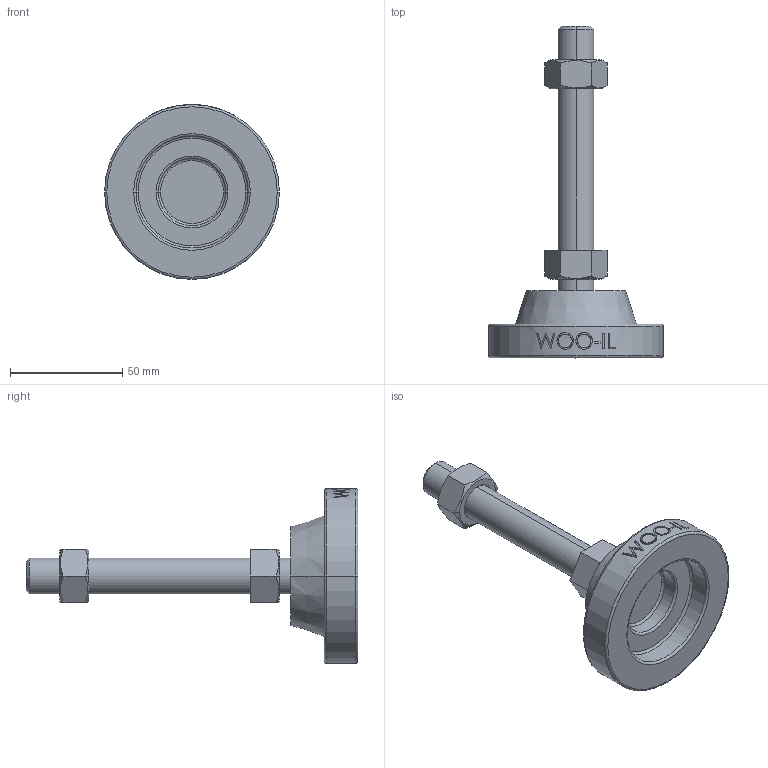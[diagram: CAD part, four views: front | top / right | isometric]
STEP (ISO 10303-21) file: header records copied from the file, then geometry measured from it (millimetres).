
FILE_DESCRIPTION (( 'STEP AP214' ), '1' );
FILE_NAME ('MFU78-M16-100.step', '2021-01-21T06:14:00', ( '' ), ( '' ), 'SwSTEP 2.0', 'SolidWorks 2019', '' );
FILE_SCHEMA (( 'AUTOMOTIVE_DESIGN' ));
Length unit declared in the file: millimetre
Products named in the file (2): MFU78-M16-100
Bounding box: 78 x 148 x 78 mm (x, y, z)
Volume: 105930.9 mm3; surface area: 25896.9 mm2
Topology: 2 solids, 2 shells, 111 faces, 255 edges, 162 vertices
Faces by surface type: plane 49, cylinder 20, bspline 16, cone 14, torus 12
Entity records: 4663 total; most frequent: CARTESIAN_POINT 2202, ORIENTED_EDGE 510, DIRECTION 471, EDGE_CURVE 255, AXIS2_PLACEMENT_3D 185, VERTEX_POINT 162, EDGE_LOOP 127, FACE_OUTER_BOUND 111
